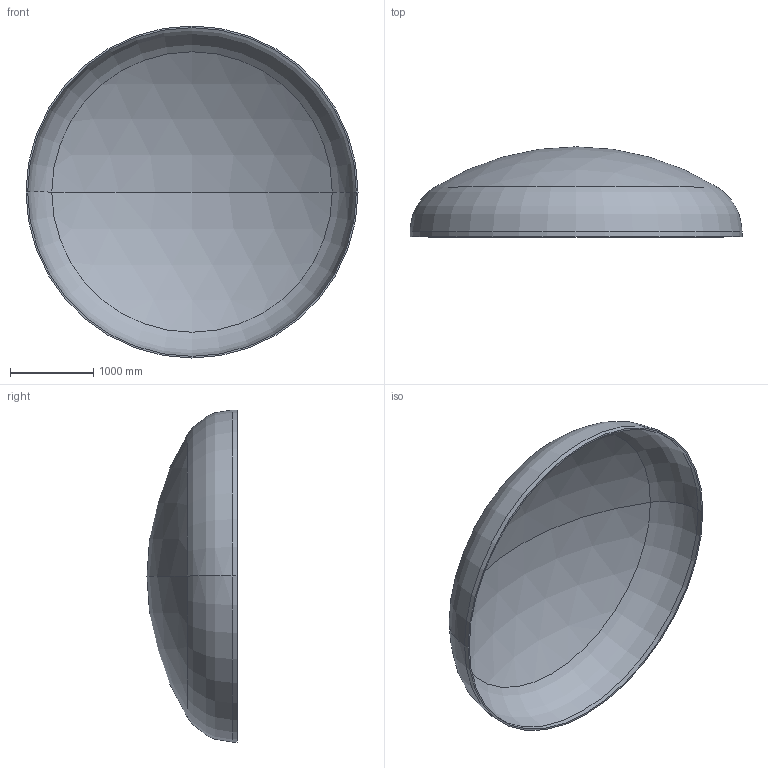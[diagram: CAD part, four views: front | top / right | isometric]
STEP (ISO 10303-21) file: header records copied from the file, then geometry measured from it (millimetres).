
FILE_DESCRIPTION (( 'STEP AP203' ), '1' );
FILE_NAME ('DIN 28013 Korbbogenform_-_Boden DIN 28013 - 4000 x 60 - I - s=20.step', '2016-07-01T22:07:46', ( '' ), ( '' ), 'SwSTEP 2.0', 'SolidWorks 2013', '' );
FILE_SCHEMA (( 'CONFIG_CONTROL_DESIGN' ));
Length unit declared in the file: millimetre
Products named in the file (1): DIN 28013 Korbbogenform_-_Boden DIN 28013 - 4000 x 60 - I - s=20
Bounding box: 4000 x 1084.78 x 4000 mm (x, y, z)
Volume: 360698646.5 mm3; surface area: 36320758.9 mm2
Topology: 1 solids, 1 shells, 13 faces, 24 edges, 14 vertices
Faces by surface type: torus 4, cylinder 4, sphere 4, plane 1
Entity records: 407 total; most frequent: DIRECTION 72, CARTESIAN_POINT 52, ORIENTED_EDGE 48, AXIS2_PLACEMENT_3D 34, EDGE_CURVE 24, CIRCLE 20, EDGE_LOOP 14, VERTEX_POINT 14
